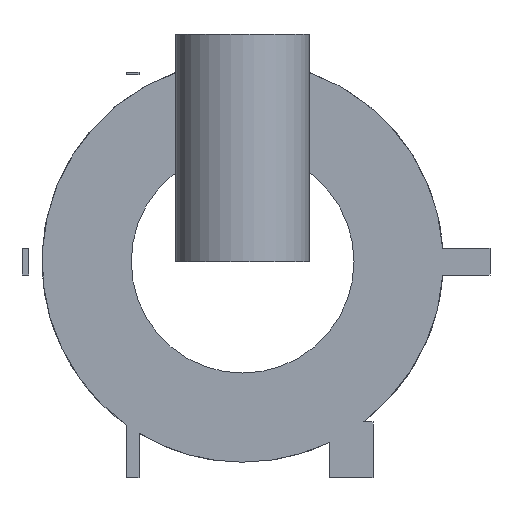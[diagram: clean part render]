
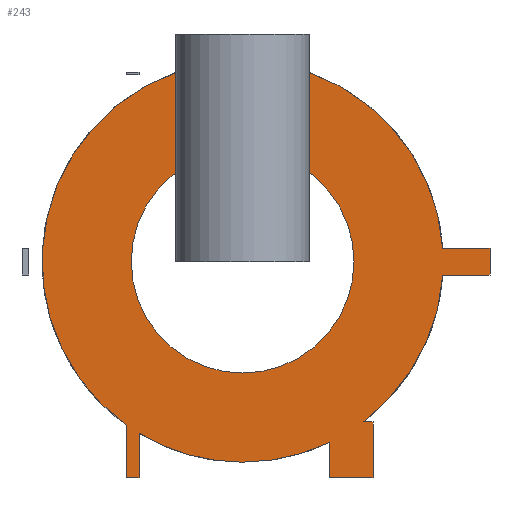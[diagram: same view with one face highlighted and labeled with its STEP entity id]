
A CAD part, front view. The second image highlights one B-rep face of the part: STEP entity #243.
In plain terms, the highlighted planar face has unit normal (0, -1, 0).
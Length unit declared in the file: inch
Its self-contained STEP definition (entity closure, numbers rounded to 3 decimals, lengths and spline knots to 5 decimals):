
#16 = VERTEX_POINT ( 'NONE', #167 ) ;
#21 = LINE ( 'NONE', #172, #1485 ) ;
#42 = DIRECTION ( 'NONE',  ( 0., 0., -1. ) ) ;
#54 = DIRECTION ( 'NONE',  ( -1., 0., 0. ) ) ;
#79 = LINE ( 'NONE', #514, #1908 ) ;
#92 = VECTOR ( 'NONE', #1600, 39.37008 ) ;
#94 = CIRCLE ( 'NONE', #161, 354.33071 ) ;
#103 = CARTESIAN_POINT ( 'NONE',  ( 0., 0., 0. ) ) ;
#104 = ORIENTED_EDGE ( 'NONE', *, *, #1974, .F. ) ;
#107 = DIRECTION ( 'NONE',  ( 0., 1., 0. ) ) ;
#143 = DIRECTION ( 'NONE',  ( 0., 0., 1. ) ) ;
#161 = AXIS2_PLACEMENT_3D ( 'NONE', #1561, #487, #789 ) ;
#165 = LINE ( 'NONE', #779, #967 ) ;
#167 = CARTESIAN_POINT ( 'NONE',  ( 353.54243, 0., 23.62205 ) ) ;
#172 = CARTESIAN_POINT ( 'NONE',  ( 437.00787, 0., 23.62205 ) ) ;
#186 = DIRECTION ( 'NONE',  ( -1., 0., 0. ) ) ;
#190 = VERTEX_POINT ( 'NONE', #907 ) ;
#203 = DIRECTION ( 'NONE',  ( 1., 0., 0. ) ) ;
#223 = VECTOR ( 'NONE', #186, 39.37008 ) ;
#236 = ORIENTED_EDGE ( 'NONE', *, *, #280, .F. ) ;
#243 = ADVANCED_FACE ( 'NONE', ( #1828, #617 ), #1699, .F. ) ;
#248 = CARTESIAN_POINT ( 'NONE',  ( 0., 0., -196.85039 ) ) ;
#280 = EDGE_CURVE ( 'NONE', #16, #1461, #165, .T. ) ;
#285 = VERTEX_POINT ( 'NONE', #1407 ) ;
#287 = ORIENTED_EDGE ( 'NONE', *, *, #495, .T. ) ;
#289 = CARTESIAN_POINT ( 'NONE',  ( -204.91866, 0., -289.06504 ) ) ;
#297 = VERTEX_POINT ( 'NONE', #1680 ) ;
#304 = EDGE_CURVE ( 'NONE', #551, #1529, #94, .T. ) ;
#327 = LINE ( 'NONE', #1389, #1256 ) ;
#341 = CARTESIAN_POINT ( 'NONE',  ( -204.91866, 0., -289.06504 ) ) ;
#393 = CARTESIAN_POINT ( 'NONE',  ( 153.54331, 0., -381.62467 ) ) ;
#394 = CARTESIAN_POINT ( 'NONE',  ( 153.54331, 0., -283.23735 ) ) ;
#407 = VERTEX_POINT ( 'NONE', #248 ) ;
#425 = ORIENTED_EDGE ( 'NONE', *, *, #1837, .F. ) ;
#441 = DIRECTION ( 'NONE',  ( 0., 0., 1. ) ) ;
#442 = CARTESIAN_POINT ( 'NONE',  ( 0., 0., 0. ) ) ;
#450 = DIRECTION ( 'NONE',  ( 0., 0., 1. ) ) ;
#452 = EDGE_CURVE ( 'NONE', #190, #1270, #637, .T. ) ;
#487 = DIRECTION ( 'NONE',  ( 0., 1., 0. ) ) ;
#495 = EDGE_CURVE ( 'NONE', #407, #297, #1127, .T. ) ;
#514 = CARTESIAN_POINT ( 'NONE',  ( 153.54331, 0., -283.23735 ) ) ;
#515 = VECTOR ( 'NONE', #905, 39.37008 ) ;
#533 = EDGE_CURVE ( 'NONE', #1091, #16, #1615, .T. ) ;
#538 = CARTESIAN_POINT ( 'NONE',  ( 0., 0., 354.33071 ) ) ;
#547 = DIRECTION ( 'NONE',  ( 0., 1., 0. ) ) ;
#551 = VERTEX_POINT ( 'NONE', #921 ) ;
#552 = CARTESIAN_POINT ( 'NONE',  ( 330.70866, 0., -23.62205 ) ) ;
#590 = EDGE_CURVE ( 'NONE', #853, #1028, #1921, .T. ) ;
#601 = DIRECTION ( 'NONE',  ( 0., 1., 0. ) ) ;
#617 = FACE_BOUND ( 'NONE', #1633, .T. ) ;
#626 = DIRECTION ( 'NONE',  ( 1., 0., 0. ) ) ;
#635 = DIRECTION ( 'NONE',  ( 0., 0., -1. ) ) ;
#637 = LINE ( 'NONE', #393, #223 ) ;
#639 = ORIENTED_EDGE ( 'NONE', *, *, #1571, .F. ) ;
#653 = ORIENTED_EDGE ( 'NONE', *, *, #1655, .F. ) ;
#658 = LINE ( 'NONE', #394, #1350 ) ;
#700 = ORIENTED_EDGE ( 'NONE', *, *, #1118, .T. ) ;
#711 = ORIENTED_EDGE ( 'NONE', *, *, #533, .F. ) ;
#723 = DIRECTION ( 'NONE',  ( 0., 0., 1. ) ) ;
#729 = ORIENTED_EDGE ( 'NONE', *, *, #1880, .F. ) ;
#740 = ORIENTED_EDGE ( 'NONE', *, *, #304, .F. ) ;
#749 = VERTEX_POINT ( 'NONE', #341 ) ;
#764 = CARTESIAN_POINT ( 'NONE',  ( 0., 0., -354.33071 ) ) ;
#777 = EDGE_CURVE ( 'NONE', #1461, #853, #21, .T. ) ;
#779 = CARTESIAN_POINT ( 'NONE',  ( 330.70866, 0., 23.62205 ) ) ;
#789 = DIRECTION ( 'NONE',  ( 0., 0., 1. ) ) ;
#821 = CARTESIAN_POINT ( 'NONE',  ( -183.07087, 0., -289.06504 ) ) ;
#849 = DIRECTION ( 'NONE',  ( 0., 0., 1. ) ) ;
#853 = VERTEX_POINT ( 'NONE', #1964 ) ;
#866 = AXIS2_PLACEMENT_3D ( 'NONE', #1847, #601, #450 ) ;
#894 = CIRCLE ( 'NONE', #866, 354.33071 ) ;
#900 = EDGE_LOOP ( 'NONE', ( #729, #425, #1037, #653, #1532, #740, #639, #1000, #1019, #104, #1193, #1220, #1288, #236, #711 ) ) ;
#905 = DIRECTION ( 'NONE',  ( 0., 0., 1. ) ) ;
#907 = CARTESIAN_POINT ( 'NONE',  ( 230.31496, 0., -381.62467 ) ) ;
#913 = DIRECTION ( 'NONE',  ( 0., 1., 0. ) ) ;
#921 = CARTESIAN_POINT ( 'NONE',  ( 153.54331, 0., -319.33478 ) ) ;
#932 = CIRCLE ( 'NONE', #1187, 354.33071 ) ;
#960 = EDGE_CURVE ( 'NONE', #1854, #190, #327, .T. ) ;
#967 = VECTOR ( 'NONE', #626, 39.37008 ) ;
#979 = LINE ( 'NONE', #1752, #1482 ) ;
#1000 = ORIENTED_EDGE ( 'NONE', *, *, #452, .F. ) ;
#1019 = ORIENTED_EDGE ( 'NONE', *, *, #960, .F. ) ;
#1028 = VERTEX_POINT ( 'NONE', #1467 ) ;
#1037 = ORIENTED_EDGE ( 'NONE', *, *, #1642, .F. ) ;
#1044 = DIRECTION ( 'NONE',  ( 0., 1., 0. ) ) ;
#1072 = DIRECTION ( 'NONE',  ( 0., 1., 0. ) ) ;
#1091 = VERTEX_POINT ( 'NONE', #538 ) ;
#1118 = EDGE_CURVE ( 'NONE', #297, #407, #1552, .T. ) ;
#1124 = AXIS2_PLACEMENT_3D ( 'NONE', #1907, #547, #849 ) ;
#1127 = CIRCLE ( 'NONE', #1454, 196.85039 ) ;
#1165 = EDGE_CURVE ( 'NONE', #1028, #285, #932, .T. ) ;
#1187 = AXIS2_PLACEMENT_3D ( 'NONE', #103, #1953, #143 ) ;
#1193 = ORIENTED_EDGE ( 'NONE', *, *, #1165, .F. ) ;
#1217 = DIRECTION ( 'NONE',  ( 0., 0., 1. ) ) ;
#1220 = ORIENTED_EDGE ( 'NONE', *, *, #590, .F. ) ;
#1222 = VERTEX_POINT ( 'NONE', #1475 ) ;
#1256 = VECTOR ( 'NONE', #42, 39.37008 ) ;
#1270 = VERTEX_POINT ( 'NONE', #1312 ) ;
#1288 = ORIENTED_EDGE ( 'NONE', *, *, #777, .F. ) ;
#1312 = CARTESIAN_POINT ( 'NONE',  ( 153.54331, 0., -381.62467 ) ) ;
#1339 = DIRECTION ( 'NONE',  ( 0., 0., 1. ) ) ;
#1350 = VECTOR ( 'NONE', #1618, 39.37008 ) ;
#1375 = VERTEX_POINT ( 'NONE', #1439 ) ;
#1389 = CARTESIAN_POINT ( 'NONE',  ( 230.31496, 0., -283.23735 ) ) ;
#1395 = EDGE_CURVE ( 'NONE', #1529, #1222, #1708, .T. ) ;
#1406 = CARTESIAN_POINT ( 'NONE',  ( -204.91866, 0., -381.62467 ) ) ;
#1407 = CARTESIAN_POINT ( 'NONE',  ( 212.90105, 0., -283.23735 ) ) ;
#1439 = CARTESIAN_POINT ( 'NONE',  ( -183.07087, 0., -381.62467 ) ) ;
#1452 = AXIS2_PLACEMENT_3D ( 'NONE', #1548, #1072, #441 ) ;
#1454 = AXIS2_PLACEMENT_3D ( 'NONE', #1685, #913, #723 ) ;
#1461 = VERTEX_POINT ( 'NONE', #1860 ) ;
#1467 = CARTESIAN_POINT ( 'NONE',  ( 353.54243, 0., -23.62205 ) ) ;
#1475 = CARTESIAN_POINT ( 'NONE',  ( -183.07087, 0., -303.37322 ) ) ;
#1482 = VECTOR ( 'NONE', #1896, 39.37008 ) ;
#1485 = VECTOR ( 'NONE', #635, 39.37008 ) ;
#1492 = CARTESIAN_POINT ( 'NONE',  ( 0., 0., 0. ) ) ;
#1529 = VERTEX_POINT ( 'NONE', #764 ) ;
#1532 = ORIENTED_EDGE ( 'NONE', *, *, #1395, .F. ) ;
#1542 = VERTEX_POINT ( 'NONE', #1406 ) ;
#1548 = CARTESIAN_POINT ( 'NONE',  ( 0., 0., 0. ) ) ;
#1552 = CIRCLE ( 'NONE', #1808, 196.85039 ) ;
#1561 = CARTESIAN_POINT ( 'NONE',  ( 0., 0., 0. ) ) ;
#1571 = EDGE_CURVE ( 'NONE', #1270, #551, #658, .T. ) ;
#1600 = DIRECTION ( 'NONE',  ( 0., 0., -1. ) ) ;
#1615 = CIRCLE ( 'NONE', #1617, 354.33071 ) ;
#1617 = AXIS2_PLACEMENT_3D ( 'NONE', #1492, #107, #1339 ) ;
#1618 = DIRECTION ( 'NONE',  ( 0., 0., 1. ) ) ;
#1633 = EDGE_LOOP ( 'NONE', ( #287, #700 ) ) ;
#1642 = EDGE_CURVE ( 'NONE', #1375, #1542, #979, .T. ) ;
#1655 = EDGE_CURVE ( 'NONE', #1222, #1375, #1739, .T. ) ;
#1676 = LINE ( 'NONE', #289, #515 ) ;
#1680 = CARTESIAN_POINT ( 'NONE',  ( 0., 0., 196.85039 ) ) ;
#1685 = CARTESIAN_POINT ( 'NONE',  ( 0., 0., 0. ) ) ;
#1699 = PLANE ( 'NONE',  #1452 ) ;
#1708 = CIRCLE ( 'NONE', #1124, 354.33071 ) ;
#1739 = LINE ( 'NONE', #821, #92 ) ;
#1748 = VECTOR ( 'NONE', #54, 39.37008 ) ;
#1752 = CARTESIAN_POINT ( 'NONE',  ( -204.91866, 0., -381.62467 ) ) ;
#1808 = AXIS2_PLACEMENT_3D ( 'NONE', #442, #1044, #1217 ) ;
#1828 = FACE_OUTER_BOUND ( 'NONE', #900, .T. ) ;
#1837 = EDGE_CURVE ( 'NONE', #1542, #749, #1676, .T. ) ;
#1847 = CARTESIAN_POINT ( 'NONE',  ( 0., 0., 0. ) ) ;
#1854 = VERTEX_POINT ( 'NONE', #1988 ) ;
#1860 = CARTESIAN_POINT ( 'NONE',  ( 437.00787, 0., 23.62205 ) ) ;
#1880 = EDGE_CURVE ( 'NONE', #749, #1091, #894, .T. ) ;
#1896 = DIRECTION ( 'NONE',  ( -1., 0., 0. ) ) ;
#1907 = CARTESIAN_POINT ( 'NONE',  ( 0., 0., 0. ) ) ;
#1908 = VECTOR ( 'NONE', #203, 39.37008 ) ;
#1921 = LINE ( 'NONE', #552, #1748 ) ;
#1953 = DIRECTION ( 'NONE',  ( 0., 1., 0. ) ) ;
#1964 = CARTESIAN_POINT ( 'NONE',  ( 437.00787, 0., -23.62205 ) ) ;
#1974 = EDGE_CURVE ( 'NONE', #285, #1854, #79, .T. ) ;
#1988 = CARTESIAN_POINT ( 'NONE',  ( 230.31496, 0., -283.23735 ) ) ;
